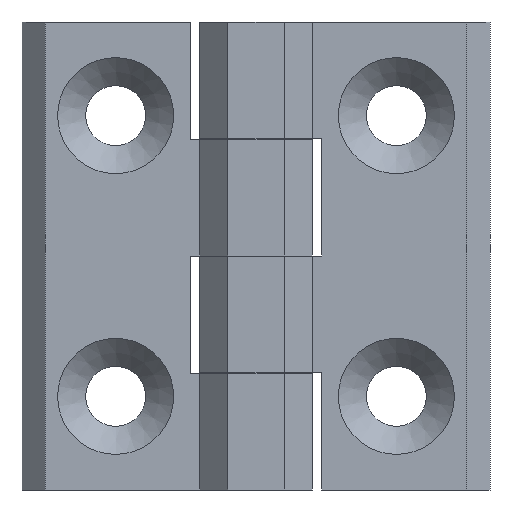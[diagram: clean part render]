
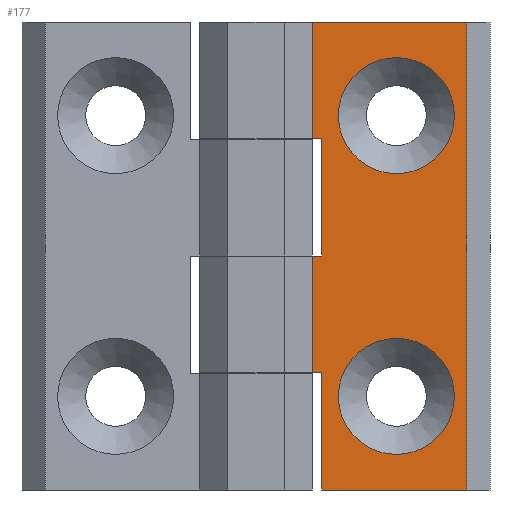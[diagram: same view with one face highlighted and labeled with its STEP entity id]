
A CAD part, front view. The second image highlights one B-rep face of the part: STEP entity #177.
In plain terms, the highlighted planar face has unit normal (0, -1, 0).
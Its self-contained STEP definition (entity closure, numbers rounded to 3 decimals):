
#177 = ADVANCED_FACE( '', ( #265, #266, #267 ), #268, .F. );
#265 = FACE_BOUND( '', #451, .T. );
#266 = FACE_BOUND( '', #452, .T. );
#267 = FACE_OUTER_BOUND( '', #453, .T. );
#268 = PLANE( '', #454 );
#451 = EDGE_LOOP( '', ( #679 ) );
#452 = EDGE_LOOP( '', ( #680 ) );
#453 = EDGE_LOOP( '', ( #681, #682, #683, #684, #685, #686, #687, #688, #689, #690 ) );
#454 = AXIS2_PLACEMENT_3D( '', #691, #692, #693 );
#679 = ORIENTED_EDGE( '', *, *, #1231, .T. );
#680 = ORIENTED_EDGE( '', *, *, #1232, .T. );
#681 = ORIENTED_EDGE( '', *, *, #1233, .F. );
#682 = ORIENTED_EDGE( '', *, *, #1234, .F. );
#683 = ORIENTED_EDGE( '', *, *, #1235, .F. );
#684 = ORIENTED_EDGE( '', *, *, #1236, .T. );
#685 = ORIENTED_EDGE( '', *, *, #1237, .F. );
#686 = ORIENTED_EDGE( '', *, *, #1238, .F. );
#687 = ORIENTED_EDGE( '', *, *, #1239, .T. );
#688 = ORIENTED_EDGE( '', *, *, #1230, .F. );
#689 = ORIENTED_EDGE( '', *, *, #1240, .F. );
#690 = ORIENTED_EDGE( '', *, *, #1241, .T. );
#691 = CARTESIAN_POINT( '', ( 6., 0.5, 50. ) );
#692 = DIRECTION( '', ( 0., 1., 0. ) );
#693 = DIRECTION( '', ( -1., 0., 0. ) );
#1230 = EDGE_CURVE( '', #1434, #1432, #1436, .T. );
#1231 = EDGE_CURVE( '', #1437, #1437, #1438, .T. );
#1232 = EDGE_CURVE( '', #1439, #1439, #1440, .T. );
#1233 = EDGE_CURVE( '', #1441, #1442, #1443, .T. );
#1234 = EDGE_CURVE( '', #1444, #1441, #1445, .T. );
#1235 = EDGE_CURVE( '', #1446, #1444, #1447, .T. );
#1236 = EDGE_CURVE( '', #1446, #1448, #1449, .T. );
#1237 = EDGE_CURVE( '', #1450, #1448, #1451, .T. );
#1238 = EDGE_CURVE( '', #1452, #1450, #1453, .T. );
#1239 = EDGE_CURVE( '', #1452, #1432, #1454, .T. );
#1240 = EDGE_CURVE( '', #1455, #1434, #1456, .T. );
#1241 = EDGE_CURVE( '', #1455, #1442, #1457, .T. );
#1432 = VERTEX_POINT( '', #1760 );
#1434 = VERTEX_POINT( '', #1763 );
#1436 = LINE( '', #1766, #1767 );
#1437 = VERTEX_POINT( '', #1768 );
#1438 = CIRCLE( '', #1769, 6.2 );
#1439 = VERTEX_POINT( '', #1770 );
#1440 = CIRCLE( '', #1771, 6.2 );
#1441 = VERTEX_POINT( '', #1772 );
#1442 = VERTEX_POINT( '', #1773 );
#1443 = LINE( '', #1774, #1775 );
#1444 = VERTEX_POINT( '', #1776 );
#1445 = LINE( '', #1777, #1778 );
#1446 = VERTEX_POINT( '', #1779 );
#1447 = LINE( '', #1780, #1781 );
#1448 = VERTEX_POINT( '', #1782 );
#1449 = LINE( '', #1783, #1784 );
#1450 = VERTEX_POINT( '', #1785 );
#1451 = LINE( '', #1786, #1787 );
#1452 = VERTEX_POINT( '', #1788 );
#1453 = LINE( '', #1789, #1790 );
#1454 = LINE( '', #1791, #1792 );
#1455 = VERTEX_POINT( '', #1793 );
#1456 = LINE( '', #1794, #1795 );
#1457 = LINE( '', #1796, #1797 );
#1760 = CARTESIAN_POINT( '', ( 22.5, 0.5, 0. ) );
#1763 = CARTESIAN_POINT( '', ( 22.5, 0.5, 50. ) );
#1766 = CARTESIAN_POINT( '', ( 22.5, 0.5, 50. ) );
#1767 = VECTOR( '', #2178, 1000. );
#1768 = CARTESIAN_POINT( '', ( 15., 0.5, 46.2 ) );
#1769 = AXIS2_PLACEMENT_3D( '', #2179, #2180, #2181 );
#1770 = CARTESIAN_POINT( '', ( 15., 0.5, 16.2 ) );
#1771 = AXIS2_PLACEMENT_3D( '', #2182, #2183, #2184 );
#1772 = CARTESIAN_POINT( '', ( 7., 0.5, 37.55 ) );
#1773 = CARTESIAN_POINT( '', ( 6., 0.5, 37.55 ) );
#1774 = CARTESIAN_POINT( '', ( 6., 0.5, 37.55 ) );
#1775 = VECTOR( '', #2185, 1000. );
#1776 = CARTESIAN_POINT( '', ( 7., 0.5, 25. ) );
#1777 = CARTESIAN_POINT( '', ( 7., 0.5, 50. ) );
#1778 = VECTOR( '', #2186, 1000. );
#1779 = CARTESIAN_POINT( '', ( 6., 0.5, 25. ) );
#1780 = CARTESIAN_POINT( '', ( 6., 0.5, 25. ) );
#1781 = VECTOR( '', #2187, 1000. );
#1782 = CARTESIAN_POINT( '', ( 6., 0.5, 12.55 ) );
#1783 = CARTESIAN_POINT( '', ( 6., 0.5, 50. ) );
#1784 = VECTOR( '', #2188, 1000. );
#1785 = CARTESIAN_POINT( '', ( 7., 0.5, 12.55 ) );
#1786 = CARTESIAN_POINT( '', ( 6., 0.5, 12.55 ) );
#1787 = VECTOR( '', #2189, 1000. );
#1788 = CARTESIAN_POINT( '', ( 7., 0.5, 0. ) );
#1789 = CARTESIAN_POINT( '', ( 7., 0.5, 50. ) );
#1790 = VECTOR( '', #2190, 1000. );
#1791 = CARTESIAN_POINT( '', ( 6., 0.5, 0. ) );
#1792 = VECTOR( '', #2191, 1000. );
#1793 = CARTESIAN_POINT( '', ( 6., 0.5, 50. ) );
#1794 = CARTESIAN_POINT( '', ( 6., 0.5, 50. ) );
#1795 = VECTOR( '', #2192, 1000. );
#1796 = CARTESIAN_POINT( '', ( 6., 0.5, 50. ) );
#1797 = VECTOR( '', #2193, 1000. );
#2178 = DIRECTION( '', ( 0., 0., -1. ) );
#2179 = CARTESIAN_POINT( '', ( 15., 0.5, 40. ) );
#2180 = DIRECTION( '', ( 0., 1., 0. ) );
#2181 = DIRECTION( '', ( 0., 0., 1. ) );
#2182 = CARTESIAN_POINT( '', ( 15., 0.5, 10. ) );
#2183 = DIRECTION( '', ( 0., 1., 0. ) );
#2184 = DIRECTION( '', ( 0., 0., 1. ) );
#2185 = DIRECTION( '', ( -1., 0., 0. ) );
#2186 = DIRECTION( '', ( 0., 0., 1. ) );
#2187 = DIRECTION( '', ( 1., 0., 0. ) );
#2188 = DIRECTION( '', ( 0., 0., -1. ) );
#2189 = DIRECTION( '', ( -1., 0., 0. ) );
#2190 = DIRECTION( '', ( 0., 0., 1. ) );
#2191 = DIRECTION( '', ( 1., 0., 0. ) );
#2192 = DIRECTION( '', ( 1., 0., 0. ) );
#2193 = DIRECTION( '', ( 0., 0., -1. ) );
